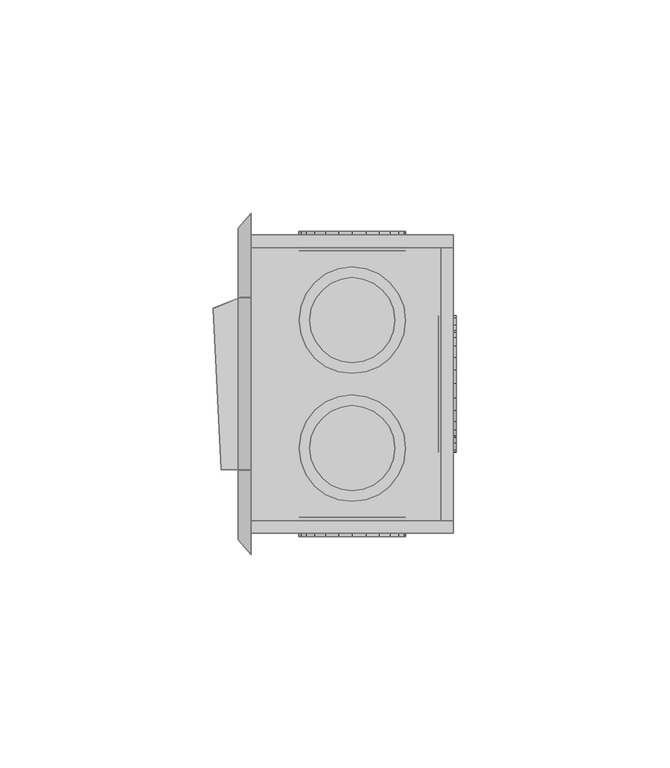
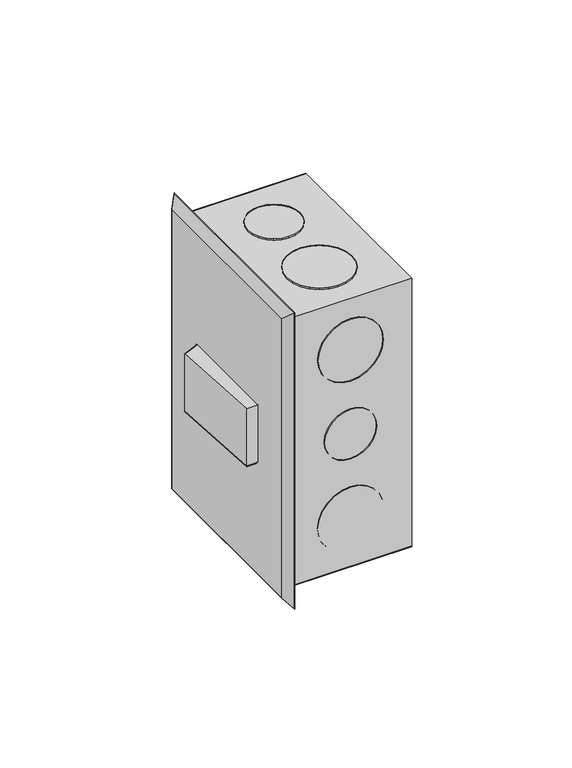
"""IFC4 building model written with IfcOpenShell, lengths in millimetres: proxy geometry,  210839 :  210839."""

from ifc_helpers import new_model, si_unit, origin, place, context, project, spatial, triangles, source, transform, mapped, element, save


def generic_models_a9407fab(model_context):
    return source(origin(), model_context, "Body", "Tessellation", [
        triangles([(8576.5997498, 30143.9995789, 1254.3000378), (8576.5997498, 30146.9993958, 1148.7000154), (8576.5997498, 30143.9995789, 1145.6999805), (8576.5997498, 30146.9993958, 1251.2999302), (8576.5997498, 30213.9999573, 1254.3000378), (8576.5997498, 30211.0001404, 1251.2999302), (8576.5997498, 30213.9999573, 1145.6999805), (8576.5997498, 30211.0001404, 1148.7000154), (8624.0997574, 30146.9993958, 1251.2999302), (8624.0997574, 30146.9993958, 1148.7000154), (8624.0997574, 30213.9999573, 1254.3000378), (8624.0997574, 30213.9999573, 1145.6999805), (8624.0997574, 30211.0001404, 1251.2999302), (8624.0997574, 30143.9995789, 1145.6999805), (8624.0997574, 30211.0001404, 1148.7000154), (8624.0997574, 30143.9995789, 1254.3000378), (8621.0999405, 30146.9993958, 1251.2999302), (8621.0999405, 30211.0001404, 1148.7000154), (8621.0999405, 30146.9993958, 1148.7000154), (8621.0999405, 30211.0001404, 1251.2999302), (8620.599971, 30165.1006165, 1191.9999887), (8620.599971, 30171.0002563, 1186.0999855), (8620.599971, 30167.7004578, 1188.6999722), (8620.599971, 30163.5007141, 1195.8999687), (8620.599971, 30174.8000244, 1184.5000105), (8620.599971, 30163.0007446, 1200.0000092), (8620.599971, 30178.9997681, 1183.9999683), (8620.599971, 30163.5007141, 1204.0999769), (8620.599971, 30183.0995178, 1184.5000105), (8620.599971, 30165.1006165, 1208.0000296), (8620.599971, 30186.9992798, 1186.0999855), (8620.599971, 30167.7004578, 1211.2999735), (8620.599971, 30190.2990784, 1188.6999722), (8620.599971, 30171.0002563, 1213.9000328), (8620.599971, 30192.7989258, 1191.9999887), (8620.599971, 30174.8000244, 1215.5000078), (8620.599971, 30194.4011536, 1195.8999687), (8620.599971, 30178.9997681, 1215.9999773), (8620.599971, 30195.0011169, 1200.0000092), (8620.599971, 30183.0995178, 1215.5000078), (8620.599971, 30194.4011536, 1204.0999769), (8620.599971, 30186.9992798, 1213.9000328), (8620.599971, 30192.7989258, 1208.0000296), (8620.599971, 30190.2990784, 1211.2999735), (8624.7997147, 30183.0995178, 1184.5000105), (8624.7997147, 30178.9997681, 1183.9999683), (8624.7997147, 30174.8000244, 1184.5000105), (8624.7997147, 30171.0002563, 1186.0999855), (8624.7997147, 30167.7004578, 1188.6999722), (8624.7997147, 30165.1006165, 1191.9999887), (8624.7997147, 30163.5007141, 1195.8999687), (8624.7997147, 30163.0007446, 1200.0000092), (8624.7997147, 30163.5007141, 1204.0999769), (8624.7997147, 30165.1006165, 1208.0000296), (8624.7997147, 30167.7004578, 1211.2999735), (8624.7997147, 30171.0002563, 1213.9000328), (8624.7997147, 30174.8000244, 1215.5000078), (8624.7997147, 30178.9997681, 1215.9999773), (8624.7997147, 30183.0995178, 1215.5000078), (8624.7997147, 30186.9992798, 1213.9000328), (8624.7997147, 30190.2990784, 1211.2999735), (8624.7997147, 30192.7989258, 1208.0000296), (8624.7997147, 30194.4011536, 1204.0999769), (8624.7997147, 30195.0011169, 1200.0000092), (8624.7997147, 30194.4011536, 1195.8999687), (8624.7997147, 30192.7989258, 1191.9999887), (8624.7997147, 30190.2990784, 1188.6999722), (8624.7997147, 30186.9992798, 1186.0999855), (8620.599971, 30168.1004333, 1227.8000565), (8620.599971, 30172.7001526, 1223.2000465), (8620.599971, 30170.1003113, 1225.2000698), (8620.599971, 30166.9005066, 1230.8000187), (8620.599971, 30175.6999695, 1221.8999805), (8620.599971, 30166.500531, 1233.9999687), (8620.599971, 30178.9997681, 1221.500005), (8620.599971, 30166.9005066, 1237.2000641), (8620.599971, 30182.1995728, 1221.8999805), (8620.599971, 30168.1004333, 1240.3000202), (8620.599971, 30185.1993896, 1223.2000465), (8620.599971, 30170.1003113, 1242.800013), (8620.599971, 30187.799231, 1225.2000698), (8620.599971, 30189.7991089, 1227.8000565), (8620.599971, 30172.7001526, 1244.8000362), (8620.599971, 30175.6999695, 1246.0999569), (8620.599971, 30190.9990356, 1230.8000187), (8620.599971, 30178.9997681, 1246.4999325), (8620.599971, 30191.4990051, 1233.9999687), (8620.599971, 30182.1995728, 1246.0999569), (8620.599971, 30190.9990356, 1237.2000641), (8620.599971, 30189.7991089, 1240.3000202), (8620.599971, 30185.1993896, 1244.8000362), (8620.599971, 30187.799231, 1242.800013), (8624.7997147, 30190.9990356, 1230.8000187), (8624.7997147, 30189.7991089, 1227.8000565), (8624.7997147, 30187.799231, 1225.2000698), (8624.7997147, 30185.1993896, 1223.2000465), (8624.7997147, 30182.1995728, 1221.8999805), (8624.7997147, 30178.9997681, 1221.500005), (8624.7997147, 30175.6999695, 1221.8999805), (8624.7997147, 30172.7001526, 1223.2000465), (8624.7997147, 30170.1003113, 1225.2000698), (8624.7997147, 30168.1004333, 1227.8000565), (8624.7997147, 30166.9005066, 1230.8000187), (8624.7997147, 30166.500531, 1233.9999687), (8624.7997147, 30166.9005066, 1237.2000641), (8624.7997147, 30168.1004333, 1240.3000202), (8624.7997147, 30170.1003113, 1242.800013), (8624.7997147, 30172.7001526, 1244.8000362), (8624.7997147, 30175.6999695, 1246.0999569), (8624.7997147, 30178.9997681, 1246.4999325), (8624.7997147, 30182.1995728, 1246.0999569), (8624.7997147, 30185.1993896, 1244.8000362), (8624.7997147, 30187.799231, 1242.800013), (8624.7997147, 30189.7991089, 1240.3000202), (8624.7997147, 30190.9990356, 1237.2000641), (8624.7997147, 30191.4990051, 1233.9999687), (8624.7997147, 30172.7001526, 1155.1999821), (8624.7997147, 30168.1004333, 1159.6999981), (8624.7997147, 30170.1003113, 1157.2000053), (8624.7997147, 30175.6999695, 1153.8999887), (8624.7997147, 30166.9005066, 1162.8000269), (8624.7997147, 30178.9997681, 1153.5000132), (8624.7997147, 30166.500531, 1165.9999769), (8624.7997147, 30182.1995728, 1153.8999887), (8624.7997147, 30166.9005066, 1169.1999996), (8624.7997147, 30185.1993896, 1155.1999821), (8624.7997147, 30168.1004333, 1172.2000345), (8624.7997147, 30187.799231, 1157.2000053), (8624.7997147, 30170.1003113, 1174.8000212), (8624.7997147, 30189.7991089, 1159.6999981), (8624.7997147, 30172.7001526, 1176.7999718), (8624.7997147, 30190.9990356, 1162.8000269), (8624.7997147, 30175.6999695, 1178.0999651), (8624.7997147, 30178.9997681, 1178.5000134), (8624.7997147, 30191.4990051, 1165.9999769), (8624.7997147, 30190.9990356, 1169.1999996), (8624.7997147, 30182.1995728, 1178.0999651), (8624.7997147, 30189.7991089, 1172.2000345), (8624.7997147, 30185.1993896, 1176.7999718), (8624.7997147, 30187.799231, 1174.8000212), (8620.599971, 30175.6999695, 1178.0999651), (8620.599971, 30178.9997681, 1178.5000134), (8620.599971, 30172.7001526, 1176.7999718), (8620.599971, 30170.1003113, 1174.8000212), (8620.599971, 30168.1004333, 1172.2000345), (8620.599971, 30166.9005066, 1169.1999996), (8620.599971, 30166.500531, 1165.9999769), (8620.599971, 30166.9005066, 1162.8000269), (8620.599971, 30168.1004333, 1159.6999981), (8620.599971, 30170.1003113, 1157.2000053), (8620.599971, 30172.7001526, 1155.1999821), (8620.599971, 30175.6999695, 1153.8999887), (8620.599971, 30178.9997681, 1153.5000132), (8620.599971, 30182.1995728, 1153.8999887), (8620.599971, 30185.1993896, 1155.1999821), (8620.599971, 30187.799231, 1157.2000053), (8620.599971, 30189.7991089, 1159.6999981), (8620.599971, 30190.9990356, 1162.8000269), (8620.599971, 30191.4990051, 1165.9999769), (8620.599971, 30190.9990356, 1169.1999996), (8620.599971, 30189.7991089, 1172.2000345), (8620.599971, 30187.799231, 1174.8000212), (8620.599971, 30185.1993896, 1176.7999718), (8620.599971, 30182.1995728, 1178.0999651), (8605.2997421, 30147.7993469, 1191.3000315), (8609.0000977, 30147.7993469, 1195.0000237), (8607.4001953, 30147.7993469, 1192.9000065), (8610.0000366, 30147.7993469, 1197.4000225), (8602.8998886, 30147.7993469, 1190.3000198), (8610.3000183, 30147.7993469, 1200.0000092), (8600.3000473, 30147.7993469, 1189.9999655), (8597.8001999, 30147.7993469, 1190.3000198), (8610.0000366, 30147.7993469, 1202.5999958), (8609.0000977, 30147.7993469, 1204.9999947), (8595.2997711, 30147.7993469, 1191.3000315), (8607.4001953, 30147.7993469, 1207.1000118), (8593.2998932, 30147.7993469, 1192.9000065), (8591.6999908, 30147.7993469, 1195.0000237), (8605.2997421, 30147.7993469, 1208.6999868), (8590.7000519, 30147.7993469, 1197.4000225), (8602.8998886, 30147.7993469, 1209.6999985), (8590.3000763, 30147.7993469, 1200.0000092), (8600.3000473, 30147.7993469, 1209.9999802), (8590.7000519, 30147.7993469, 1202.5999958), (8597.8001999, 30147.7993469, 1209.6999985), (8595.2997711, 30147.7993469, 1208.6999868), (8591.6999908, 30147.7993469, 1204.9999947), (8593.2998932, 30147.7993469, 1207.1000118), (8600.3000473, 30143.1996277, 1189.9999655), (8602.8998886, 30143.1996277, 1190.3000198), (8597.8001999, 30143.1996277, 1190.3000198), (8595.2997711, 30143.1996277, 1191.3000315), (8593.2998932, 30143.1996277, 1192.9000065), (8591.6999908, 30143.1996277, 1195.0000237), (8590.7000519, 30143.1996277, 1197.4000225), (8590.3000763, 30143.1996277, 1200.0000092), (8590.7000519, 30143.1996277, 1202.5999958), (8591.6999908, 30143.1996277, 1204.9999947), (8593.2998932, 30143.1996277, 1207.1000118), (8595.2997711, 30143.1996277, 1208.6999868), (8597.8001999, 30143.1996277, 1209.6999985), (8600.3000473, 30143.1996277, 1209.9999802), (8602.8998886, 30143.1996277, 1209.6999985), (8605.2997421, 30143.1996277, 1208.6999868), (8607.4001953, 30143.1996277, 1207.1000118), (8609.0000977, 30143.1996277, 1204.9999947), (8610.0000366, 30143.1996277, 1202.5999958), (8610.3000183, 30143.1996277, 1200.0000092), (8610.0000366, 30143.1996277, 1197.4000225), (8609.0000977, 30143.1996277, 1195.0000237), (8607.4001953, 30143.1996277, 1192.9000065), (8605.2997421, 30143.1996277, 1191.3000315), (8606.6002441, 30147.7993469, 1223.2000465), (8611.1999634, 30147.7993469, 1227.8000565), (8609.2000854, 30147.7993469, 1225.2000698), (8603.5998459, 30147.7993469, 1221.8999805), (8612.3998901, 30147.7993469, 1230.8000187), (8612.7998657, 30147.7993469, 1233.9999687), (8600.3000473, 30147.7993469, 1221.500005), (8597.1002426, 30147.7993469, 1221.8999805), (8612.3998901, 30147.7993469, 1237.2000641), (8611.1999634, 30147.7993469, 1240.3000202), (8594.0998444, 30147.7993469, 1223.2000465), (8591.5000031, 30147.7993469, 1225.2000698), (8609.2000854, 30147.7993469, 1242.800013), (8589.5001251, 30147.7993469, 1227.8000565), (8606.6002441, 30147.7993469, 1244.8000362), (8588.3001984, 30147.7993469, 1230.8000187), (8603.5998459, 30147.7993469, 1246.0999569), (8587.8002289, 30147.7993469, 1233.9999687), (8600.3000473, 30147.7993469, 1246.4999325), (8588.3001984, 30147.7993469, 1237.2000641), (8597.1002426, 30147.7993469, 1246.0999569), (8589.5001251, 30147.7993469, 1240.3000202), (8594.0998444, 30147.7993469, 1244.8000362), (8591.5000031, 30147.7993469, 1242.800013), (8600.3000473, 30143.1996277, 1221.500005), (8603.5998459, 30143.1996277, 1221.8999805), (8597.1002426, 30143.1996277, 1221.8999805), (8594.0998444, 30143.1996277, 1223.2000465), (8591.5000031, 30143.1996277, 1225.2000698), (8589.5001251, 30143.1996277, 1227.8000565), (8588.3001984, 30143.1996277, 1230.8000187), (8587.8002289, 30143.1996277, 1233.9999687), (8588.3001984, 30143.1996277, 1237.2000641), (8589.5001251, 30143.1996277, 1240.3000202), (8591.5000031, 30143.1996277, 1242.800013), (8594.0998444, 30143.1996277, 1244.8000362), (8597.1002426, 30143.1996277, 1246.0999569), (8600.3000473, 30143.1996277, 1246.4999325), (8603.5998459, 30143.1996277, 1246.0999569), (8606.6002441, 30143.1996277, 1244.8000362), (8609.2000854, 30143.1996277, 1242.800013), (8611.1999634, 30143.1996277, 1240.3000202), (8612.3998901, 30143.1996277, 1237.2000641), (8612.7998657, 30143.1996277, 1233.9999687), (8612.3998901, 30143.1996277, 1230.8000187), (8611.1999634, 30143.1996277, 1227.8000565), (8609.2000854, 30143.1996277, 1225.2000698), (8606.6002441, 30143.1996277, 1223.2000465), (8611.1999634, 30143.1996277, 1159.6999981), (8606.6002441, 30143.1996277, 1155.1999821), (8609.2000854, 30143.1996277, 1157.2000053), (8612.3998901, 30143.1996277, 1162.8000269), (8603.5998459, 30143.1996277, 1153.8999887), (8612.7998657, 30143.1996277, 1165.9999769), (8600.3000473, 30143.1996277, 1153.5000132), (8612.3998901, 30143.1996277, 1169.1999996), (8597.1002426, 30143.1996277, 1153.8999887), (8611.1999634, 30143.1996277, 1172.2000345), (8594.0998444, 30143.1996277, 1155.1999821), (8609.2000854, 30143.1996277, 1174.8000212), (8591.5000031, 30143.1996277, 1157.2000053), (8606.6002441, 30143.1996277, 1176.7999718), (8589.5001251, 30143.1996277, 1159.6999981), (8603.5998459, 30143.1996277, 1178.0999651), (8588.3001984, 30143.1996277, 1162.8000269), (8600.3000473, 30143.1996277, 1178.5000134), (8587.8002289, 30143.1996277, 1165.9999769), (8597.1002426, 30143.1996277, 1178.0999651), (8588.3001984, 30143.1996277, 1169.1999996), (8594.0998444, 30143.1996277, 1176.7999718), (8589.5001251, 30143.1996277, 1172.2000345), (8591.5000031, 30143.1996277, 1174.8000212), (8603.5998459, 30147.7993469, 1178.0999651), (8600.3000473, 30147.7993469, 1178.5000134), (8597.1002426, 30147.7993469, 1178.0999651), (8594.0998444, 30147.7993469, 1176.7999718), (8591.5000031, 30147.7993469, 1174.8000212), (8589.5001251, 30147.7993469, 1172.2000345), (8588.3001984, 30147.7993469, 1169.1999996), (8587.8002289, 30147.7993469, 1165.9999769), (8588.3001984, 30147.7993469, 1162.8000269), (8589.5001251, 30147.7993469, 1159.6999981), (8591.5000031, 30147.7993469, 1157.2000053), (8594.0998444, 30147.7993469, 1155.1999821), (8597.1002426, 30147.7993469, 1153.8999887), (8600.3000473, 30147.7993469, 1153.5000132), (8603.5998459, 30147.7993469, 1153.8999887), (8606.6002441, 30147.7993469, 1155.1999821), (8609.2000854, 30147.7993469, 1157.2000053), (8611.1999634, 30147.7993469, 1159.6999981), (8612.3998901, 30147.7993469, 1162.8000269), (8612.7998657, 30147.7993469, 1165.9999769), (8612.3998901, 30147.7993469, 1169.1999996), (8611.1999634, 30147.7993469, 1172.2000345), (8609.2000854, 30147.7993469, 1174.8000212), (8606.6002441, 30147.7993469, 1176.7999718), (8609.0000977, 30210.2001892, 1195.0000237), (8605.2997421, 30210.2001892, 1191.3000315), (8607.4001953, 30210.2001892, 1192.9000065), (8610.0000366, 30210.2001892, 1197.4000225), (8602.8998886, 30210.2001892, 1190.3000198), (8610.3000183, 30210.2001892, 1200.0000092), (8600.3000473, 30210.2001892, 1189.9999655), (8610.0000366, 30210.2001892, 1202.5999958), (8597.8001999, 30210.2001892, 1190.3000198), (8609.0000977, 30210.2001892, 1204.9999947), (8595.2997711, 30210.2001892, 1191.3000315), (8607.4001953, 30210.2001892, 1207.1000118), (8593.2998932, 30210.2001892, 1192.9000065), (8605.2997421, 30210.2001892, 1208.6999868), (8591.6999908, 30210.2001892, 1195.0000237), (8602.8998886, 30210.2001892, 1209.6999985), (8590.7000519, 30210.2001892, 1197.4000225), (8590.3000763, 30210.2001892, 1200.0000092), (8600.3000473, 30210.2001892, 1209.9999802), (8597.8001999, 30210.2001892, 1209.6999985), (8590.7000519, 30210.2001892, 1202.5999958), (8595.2997711, 30210.2001892, 1208.6999868), (8591.6999908, 30210.2001892, 1204.9999947), (8593.2998932, 30210.2001892, 1207.1000118), (8602.8998886, 30214.7999084, 1209.6999985), (8600.3000473, 30214.7999084, 1209.9999802), (8597.8001999, 30214.7999084, 1209.6999985), (8595.2997711, 30214.7999084, 1208.6999868), (8593.2998932, 30214.7999084, 1207.1000118), (8591.6999908, 30214.7999084, 1204.9999947), (8590.7000519, 30214.7999084, 1202.5999958), (8590.3000763, 30214.7999084, 1200.0000092), (8590.7000519, 30214.7999084, 1197.4000225), (8591.6999908, 30214.7999084, 1195.0000237), (8593.2998932, 30214.7999084, 1192.9000065), (8595.2997711, 30214.7999084, 1191.3000315), (8597.8001999, 30214.7999084, 1190.3000198), (8600.3000473, 30214.7999084, 1189.9999655), (8602.8998886, 30214.7999084, 1190.3000198), (8605.2997421, 30214.7999084, 1191.3000315), (8607.4001953, 30214.7999084, 1192.9000065), (8609.0000977, 30214.7999084, 1195.0000237), (8610.0000366, 30214.7999084, 1197.4000225), (8610.3000183, 30214.7999084, 1200.0000092), (8610.0000366, 30214.7999084, 1202.5999958), (8609.0000977, 30214.7999084, 1204.9999947), (8607.4001953, 30214.7999084, 1207.1000118), (8605.2997421, 30214.7999084, 1208.6999868), (8611.1999634, 30210.2001892, 1159.6999981), (8606.6002441, 30210.2001892, 1155.1999821), (8609.2000854, 30210.2001892, 1157.2000053), (8612.3998901, 30210.2001892, 1162.8000269), (8603.5998459, 30210.2001892, 1153.8999887), (8612.7998657, 30210.2001892, 1165.9999769), (8600.3000473, 30210.2001892, 1153.5000132), (8612.3998901, 30210.2001892, 1169.1999996), (8597.1002426, 30210.2001892, 1153.8999887), (8611.1999634, 30210.2001892, 1172.2000345), (8594.0998444, 30210.2001892, 1155.1999821), (8609.2000854, 30210.2001892, 1174.8000212), (8591.5000031, 30210.2001892, 1157.2000053), (8606.6002441, 30210.2001892, 1176.7999718), (8589.5001251, 30210.2001892, 1159.6999981), (8603.5998459, 30210.2001892, 1178.0999651), (8588.3001984, 30210.2001892, 1162.8000269), (8600.3000473, 30210.2001892, 1178.5000134), (8587.8002289, 30210.2001892, 1165.9999769), (8597.1002426, 30210.2001892, 1178.0999651), (8588.3001984, 30210.2001892, 1169.1999996), (8594.0998444, 30210.2001892, 1176.7999718), (8589.5001251, 30210.2001892, 1172.2000345), (8591.5000031, 30210.2001892, 1174.8000212), (8603.5998459, 30214.7999084, 1178.0999651), (8600.3000473, 30214.7999084, 1178.5000134), (8597.1002426, 30214.7999084, 1178.0999651), (8594.0998444, 30214.7999084, 1176.7999718), (8591.5000031, 30214.7999084, 1174.8000212), (8589.5001251, 30214.7999084, 1172.2000345), (8588.3001984, 30214.7999084, 1169.1999996), (8587.8002289, 30214.7999084, 1165.9999769), (8588.3001984, 30214.7999084, 1162.8000269), (8589.5001251, 30214.7999084, 1159.6999981), (8591.5000031, 30214.7999084, 1157.2000053), (8594.0998444, 30214.7999084, 1155.1999821), (8597.1002426, 30214.7999084, 1153.8999887), (8600.3000473, 30214.7999084, 1153.5000132), (8603.5998459, 30214.7999084, 1153.8999887), (8606.6002441, 30214.7999084, 1155.1999821), (8609.2000854, 30214.7999084, 1157.2000053), (8611.1999634, 30214.7999084, 1159.6999981), (8612.3998901, 30214.7999084, 1162.8000269), (8612.7998657, 30214.7999084, 1165.9999769), (8612.3998901, 30214.7999084, 1169.1999996), (8611.1999634, 30214.7999084, 1172.2000345), (8609.2000854, 30214.7999084, 1174.8000212), (8606.6002441, 30214.7999084, 1176.7999718), (8606.6002441, 30214.7999084, 1223.2000465), (8611.1999634, 30214.7999084, 1227.8000565), (8609.2000854, 30214.7999084, 1225.2000698), (8603.5998459, 30214.7999084, 1221.8999805), (8612.3998901, 30214.7999084, 1230.8000187), (8612.7998657, 30214.7999084, 1233.9999687), (8600.3000473, 30214.7999084, 1221.500005), (8597.1002426, 30214.7999084, 1221.8999805), (8612.3998901, 30214.7999084, 1237.2000641), (8611.1999634, 30214.7999084, 1240.3000202), (8594.0998444, 30214.7999084, 1223.2000465), (8591.5000031, 30214.7999084, 1225.2000698), (8609.2000854, 30214.7999084, 1242.800013), (8589.5001251, 30214.7999084, 1227.8000565), (8606.6002441, 30214.7999084, 1244.8000362), (8588.3001984, 30214.7999084, 1230.8000187), (8603.5998459, 30214.7999084, 1246.0999569), (8587.8002289, 30214.7999084, 1233.9999687), (8600.3000473, 30214.7999084, 1246.4999325), (8588.3001984, 30214.7999084, 1237.2000641), (8597.1002426, 30214.7999084, 1246.0999569), (8589.5001251, 30214.7999084, 1240.3000202), (8594.0998444, 30214.7999084, 1244.8000362), (8591.5000031, 30214.7999084, 1242.800013), (8600.3000473, 30210.2001892, 1221.500005), (8603.5998459, 30210.2001892, 1221.8999805), (8597.1002426, 30210.2001892, 1221.8999805), (8594.0998444, 30210.2001892, 1223.2000465), (8591.5000031, 30210.2001892, 1225.2000698), (8589.5001251, 30210.2001892, 1227.8000565), (8588.3001984, 30210.2001892, 1230.8000187), (8587.8002289, 30210.2001892, 1233.9999687), (8588.3001984, 30210.2001892, 1237.2000641), (8589.5001251, 30210.2001892, 1240.3000202), (8591.5000031, 30210.2001892, 1242.800013), (8594.0998444, 30210.2001892, 1244.8000362), (8597.1002426, 30210.2001892, 1246.0999569), (8600.3000473, 30210.2001892, 1246.4999325), (8603.5998459, 30210.2001892, 1246.0999569), (8606.6002441, 30210.2001892, 1244.8000362), (8609.2000854, 30210.2001892, 1242.800013), (8611.1999634, 30210.2001892, 1240.3000202), (8612.3998901, 30210.2001892, 1237.2000641), (8612.7998657, 30210.2001892, 1233.9999687), (8612.3998901, 30210.2001892, 1230.8000187), (8611.1999634, 30210.2001892, 1227.8000565), (8609.2000854, 30210.2001892, 1225.2000698), (8606.6002441, 30210.2001892, 1223.2000465), (8606.6002441, 30153.0990234, 1250.9999485), (8611.1999634, 30157.7010681, 1250.9999485), (8609.2000854, 30155.0989014, 1250.9999485), (8603.5998459, 30151.8990967, 1250.9999485), (8612.3998901, 30160.700885, 1250.9999485), (8612.7998657, 30164.0006836, 1250.9999485), (8600.3000473, 30151.4991211, 1250.9999485), (8597.1002426, 30151.8990967, 1250.9999485), (8612.3998901, 30167.2004883, 1250.9999485), (8611.1999634, 30170.2003052, 1250.9999485), (8594.0998444, 30153.0990234, 1250.9999485), (8591.5000031, 30155.0989014, 1250.9999485), (8609.2000854, 30172.8001465, 1250.9999485), (8606.6002441, 30174.8000244, 1250.9999485), (8589.5001251, 30157.7010681, 1250.9999485), (8588.3001984, 30160.700885, 1250.9999485), (8603.5998459, 30175.9999512, 1250.9999485), (8587.8002289, 30164.0006836, 1250.9999485), (8600.3000473, 30176.4999207, 1250.9999485), (8588.3001984, 30167.2004883, 1250.9999485), (8597.1002426, 30175.9999512, 1250.9999485), (8594.0998444, 30174.8000244, 1250.9999485), (8589.5001251, 30170.2003052, 1250.9999485), (8591.5000031, 30172.8001465, 1250.9999485), (8612.7998657, 30164.0006836, 1255.1999828), (8612.3998901, 30167.2004883, 1255.1999828), (8612.3998901, 30160.700885, 1255.1999828), (8611.1999634, 30157.7010681, 1255.1999828), (8609.2000854, 30155.0989014, 1255.1999828), (8606.6002441, 30153.0990234, 1255.1999828), (8603.5998459, 30151.8990967, 1255.1999828), (8600.3000473, 30151.4991211, 1255.1999828), (8597.1002426, 30151.8990967, 1255.1999828), (8594.0998444, 30153.0990234, 1255.1999828), (8591.5000031, 30155.0989014, 1255.1999828), (8589.5001251, 30157.7010681, 1255.1999828), (8588.3001984, 30160.700885, 1255.1999828), (8587.8002289, 30164.0006836, 1255.1999828), (8588.3001984, 30167.2004883, 1255.1999828), (8589.5001251, 30170.2003052, 1255.1999828), (8591.5000031, 30172.8001465, 1255.1999828), (8594.0998444, 30174.8000244, 1255.1999828), (8597.1002426, 30175.9999512, 1255.1999828), (8600.3000473, 30176.4999207, 1255.1999828), (8603.5998459, 30175.9999512, 1255.1999828), (8606.6002441, 30174.8000244, 1255.1999828), (8609.2000854, 30172.8001465, 1255.1999828), (8611.1999634, 30170.2003052, 1255.1999828), (8605.2997421, 30185.2993835, 1250.9999485), (8609.0000977, 30188.9991577, 1250.9999485), (8607.4001953, 30186.8992859, 1250.9999485), (8610.0000366, 30191.3990112, 1250.9999485), (8602.8998886, 30184.2994446, 1250.9999485), (8610.3000183, 30193.9988525, 1250.9999485), (8600.3000473, 30183.9994629, 1250.9999485), (8597.8001999, 30184.2994446, 1250.9999485), (8610.0000366, 30196.6010193, 1250.9999485), (8609.0000977, 30199.0008728, 1250.9999485), (8595.2997711, 30185.2993835, 1250.9999485), (8607.4001953, 30201.0007507, 1250.9999485), (8593.2998932, 30186.8992859, 1250.9999485), (8591.6999908, 30188.9991577, 1250.9999485), (8605.2997421, 30202.6006531, 1250.9999485), (8602.8998886, 30203.600592, 1250.9999485), (8590.7000519, 30191.3990112, 1250.9999485), (8590.3000763, 30193.9988525, 1250.9999485), (8600.3000473, 30204.0005676, 1250.9999485), (8590.7000519, 30196.6010193, 1250.9999485), (8597.8001999, 30203.600592, 1250.9999485), (8591.6999908, 30199.0008728, 1250.9999485), (8595.2997711, 30202.6006531, 1250.9999485), (8593.2998932, 30201.0007507, 1250.9999485), (8610.0000366, 30196.6010193, 1255.1999828), (8609.0000977, 30199.0008728, 1255.1999828), (8610.3000183, 30193.9988525, 1255.1999828), (8610.0000366, 30191.3990112, 1255.1999828), (8609.0000977, 30188.9991577, 1255.1999828), (8607.4001953, 30186.8992859, 1255.1999828), (8605.2997421, 30185.2993835, 1255.1999828), (8602.8998886, 30184.2994446, 1255.1999828), (8600.3000473, 30183.9994629, 1255.1999828), (8597.8001999, 30184.2994446, 1255.1999828), (8595.2997711, 30185.2993835, 1255.1999828), (8593.2998932, 30186.8992859, 1255.1999828), (8591.6999908, 30188.9991577, 1255.1999828), (8590.7000519, 30191.3990112, 1255.1999828), (8590.3000763, 30193.9988525, 1255.1999828), (8590.7000519, 30196.6010193, 1255.1999828), (8591.6999908, 30199.0008728, 1255.1999828), (8593.2998932, 30201.0007507, 1255.1999828), (8595.2997711, 30202.6006531, 1255.1999828), (8597.8001999, 30203.600592, 1255.1999828), (8600.3000473, 30204.0005676, 1255.1999828), (8602.8998886, 30203.600592, 1255.1999828), (8605.2997421, 30202.6006531, 1255.1999828), (8607.4001953, 30201.0007507, 1255.1999828), (8605.2997421, 30155.2988892, 1144.8000355), (8609.0000977, 30159.0009888, 1144.8000355), (8607.4001953, 30156.9011169, 1144.8000355), (8610.0000366, 30161.4008423, 1144.8000355), (8602.8998886, 30154.2989502, 1144.8000355), (8610.3000183, 30164.0006836, 1144.8000355), (8600.3000473, 30153.9989685, 1144.8000355), (8597.8001999, 30154.2989502, 1144.8000355), (8610.0000366, 30166.6005249, 1144.8000355), (8609.0000977, 30169.0003784, 1144.8000355), (8595.2997711, 30155.2988892, 1144.8000355), (8607.4001953, 30171.0002563, 1144.8000355), (8593.2998932, 30156.9011169, 1144.8000355), (8591.6999908, 30159.0009888, 1144.8000355), (8605.2997421, 30172.6001587, 1144.8000355), (8602.8998886, 30173.6000977, 1144.8000355), (8590.7000519, 30161.4008423, 1144.8000355), (8590.3000763, 30164.0006836, 1144.8000355), (8600.3000473, 30174.0000732, 1144.8000355), (8590.7000519, 30166.6005249, 1144.8000355), (8597.8001999, 30173.6000977, 1144.8000355), (8591.6999908, 30169.0003784, 1144.8000355), (8595.2997711, 30172.6001587, 1144.8000355), (8593.2998932, 30171.0002563, 1144.8000355), (8610.0000366, 30161.4008423, 1149.099991), (8610.3000183, 30164.0006836, 1149.099991), (8609.0000977, 30159.0009888, 1149.099991), (8607.4001953, 30156.9011169, 1149.099991), (8605.2997421, 30155.2988892, 1149.099991), (8602.8998886, 30154.2989502, 1149.099991), (8600.3000473, 30153.9989685, 1149.099991), (8597.8001999, 30154.2989502, 1149.099991), (8595.2997711, 30155.2988892, 1149.099991), (8593.2998932, 30156.9011169, 1149.099991), (8591.6999908, 30159.0009888, 1149.099991), (8590.7000519, 30161.4008423, 1149.099991), (8590.3000763, 30164.0006836, 1149.099991), (8590.7000519, 30166.6005249, 1149.099991), (8591.6999908, 30169.0003784, 1149.099991), (8593.2998932, 30171.0002563, 1149.099991), (8595.2997711, 30172.6001587, 1149.099991), (8597.8001999, 30173.6000977, 1149.099991), (8600.3000473, 30174.0000732, 1149.099991), (8602.8998886, 30173.6000977, 1149.099991), (8605.2997421, 30172.6001587, 1149.099991), (8607.4001953, 30171.0002563, 1149.099991), (8609.0000977, 30169.0003784, 1149.099991), (8610.0000366, 30166.6005249, 1149.099991), (8606.6002441, 30183.0995178, 1144.8000355), (8611.1999634, 30187.6992371, 1144.8000355), (8609.2000854, 30185.0993958, 1144.8000355), (8603.5998459, 30181.8995911, 1144.8000355), (8612.3998901, 30190.699054, 1144.8000355), (8612.7998657, 30193.9988525, 1144.8000355), (8600.3000473, 30181.4996155, 1144.8000355), (8597.1002426, 30181.8995911, 1144.8000355), (8612.3998901, 30197.2009827, 1144.8000355), (8611.1999634, 30200.2007996, 1144.8000355), (8594.0998444, 30183.0995178, 1144.8000355), (8591.5000031, 30185.0993958, 1144.8000355), (8609.2000854, 30202.8006409, 1144.8000355), (8606.6002441, 30204.8005188, 1144.8000355), (8589.5001251, 30187.6992371, 1144.8000355), (8588.3001984, 30190.699054, 1144.8000355), (8603.5998459, 30206.0004456, 1144.8000355), (8587.8002289, 30193.9988525, 1144.8000355), (8600.3000473, 30206.500415, 1144.8000355), (8588.3001984, 30197.2009827, 1144.8000355), (8597.1002426, 30206.0004456, 1144.8000355), (8594.0998444, 30204.8005188, 1144.8000355), (8589.5001251, 30200.2007996, 1144.8000355), (8591.5000031, 30202.8006409, 1144.8000355), (8612.3998901, 30197.2009827, 1149.099991), (8611.1999634, 30200.2007996, 1149.099991), (8612.7998657, 30193.9988525, 1149.099991), (8612.3998901, 30190.699054, 1149.099991), (8611.1999634, 30187.6992371, 1149.099991), (8609.2000854, 30185.0993958, 1149.099991), (8606.6002441, 30183.0995178, 1149.099991), (8603.5998459, 30181.8995911, 1149.099991), (8600.3000473, 30181.4996155, 1149.099991), (8597.1002426, 30181.8995911, 1149.099991), (8594.0998444, 30183.0995178, 1149.099991), (8591.5000031, 30185.0993958, 1149.099991), (8589.5001251, 30187.6992371, 1149.099991), (8588.3001984, 30190.699054, 1149.099991), (8587.8002289, 30193.9988525, 1149.099991), (8588.3001984, 30197.2009827, 1149.099991), (8589.5001251, 30200.2007996, 1149.099991), (8591.5000031, 30202.8006409, 1149.099991), (8594.0998444, 30204.8005188, 1149.099991), (8597.1002426, 30206.0004456, 1149.099991), (8600.3000473, 30206.500415, 1149.099991), (8603.5998459, 30206.0004456, 1149.099991), (8606.6002441, 30204.8005188, 1149.099991), (8609.2000854, 30202.8006409, 1149.099991), (8576.5997498, 30218.9996521, 1139.9999651), (8576.5997498, 30158.801001, 1188.2999966), (8576.5997498, 30138.999884, 1139.9999651), (8576.5997498, 30199.2008606, 1188.2999966), (8576.5997498, 30218.9996521, 1259.9999805), (8576.5997498, 30199.2008606, 1211.7000217), (8576.5997498, 30138.999884, 1259.9999805), (8576.5997498, 30158.801001, 1211.7000217), (8573.5999329, 30199.2008606, 1188.2999966), (8573.5999329, 30199.2008606, 1211.7000217), (8573.5999329, 30158.801001, 1188.2999966), (8573.5999329, 30158.801001, 1211.7000217), (8573.5999329, 30142.4996704, 1143.4999695), (8573.5999329, 30142.4996704, 1256.5000488), (8573.5999329, 30215.4998657, 1143.4999695), (8573.5999329, 30215.4998657, 1256.5000488), (8569.600177, 30158.9009949, 1188.1000088), (8576.5997498, 30199.3008545, 1188.1000088), (8576.5997498, 30158.9009949, 1188.1000088), (8567.6997116, 30196.7010132, 1188.1000088), (8574.0999023, 30199.3008545, 1188.1000088), (8576.5997498, 30158.9009949, 1211.500034), (8576.5997498, 30199.3008545, 1211.500034), (8569.600177, 30158.9009949, 1211.500034), (8567.6997116, 30196.7010132, 1211.500034), (8574.0999023, 30199.3008545, 1211.500034)], [[1, 2, 3], [2, 1, 4], [5, 4, 1], [4, 5, 6], [3, 2, 7], [7, 2, 8], [7, 8, 6], [7, 6, 5], [2, 9, 10], [9, 2, 4], [7, 11, 12], [11, 7, 5], [4, 13, 9], [13, 4, 6], [3, 12, 14], [12, 3, 7], [13, 8, 15], [8, 13, 6], [16, 3, 14], [3, 16, 1], [15, 2, 10], [2, 15, 8], [11, 1, 16], [1, 11, 5], [12, 10, 14], [10, 12, 15], [11, 15, 12], [15, 11, 13], [14, 10, 16], [16, 10, 9], [16, 9, 13], [16, 13, 11], [17, 18, 19], [18, 17, 20], [18, 13, 15], [13, 18, 20], [19, 15, 10], [15, 19, 18], [9, 19, 10], [19, 9, 17], [13, 17, 9], [17, 13, 20], [15, 9, 10], [9, 15, 13], [21, 22, 23], [22, 21, 24], [25, 22, 24], [25, 24, 26], [27, 25, 26], [27, 26, 28], [29, 27, 28], [29, 28, 30], [31, 29, 30], [31, 30, 32], [31, 32, 33], [33, 32, 34], [33, 34, 35], [35, 34, 36], [35, 36, 37], [37, 36, 38], [37, 38, 39], [39, 38, 40], [39, 40, 41], [41, 40, 42], [41, 42, 43], [43, 42, 44], [27, 45, 46], [45, 27, 29], [25, 46, 47], [46, 25, 27], [22, 47, 48], [47, 22, 25], [23, 48, 49], [48, 23, 22], [50, 23, 49], [23, 50, 21], [51, 21, 50], [21, 51, 24], [52, 24, 51], [24, 52, 26], [53, 26, 52], [26, 53, 28], [54, 28, 53], [28, 54, 30], [55, 30, 54], [30, 55, 32], [56, 32, 55], [32, 56, 34], [57, 34, 56], [34, 57, 36], [58, 36, 57], [36, 58, 38], [59, 38, 58], [38, 59, 40], [60, 40, 59], [40, 60, 42], [61, 42, 60], [42, 61, 44], [43, 61, 62], [61, 43, 44], [41, 62, 63], [62, 41, 43], [39, 63, 64], [63, 39, 41], [37, 64, 65], [64, 37, 39], [35, 65, 66], [65, 35, 37], [33, 66, 67], [66, 33, 35], [31, 67, 68], [67, 31, 33], [29, 68, 45], [68, 29, 31], [48, 50, 49], [50, 48, 47], [51, 50, 47], [51, 47, 46], [52, 51, 46], [52, 46, 45], [53, 52, 45], [53, 45, 68], [54, 53, 68], [54, 68, 67], [54, 67, 55], [55, 67, 66], [55, 66, 56], [56, 66, 65], [56, 65, 57], [57, 65, 64], [57, 64, 58], [58, 64, 63], [58, 63, 59], [59, 63, 62], [59, 62, 60], [60, 62, 61], [69, 70, 71], [70, 69, 72], [73, 70, 72], [73, 72, 74], [75, 73, 74], [75, 74, 76], [77, 75, 76], [77, 76, 78], [79, 77, 78], [79, 78, 80], [81, 79, 80], [81, 80, 82], [82, 80, 83], [82, 83, 84], [82, 84, 85], [85, 84, 86], [85, 86, 87], [87, 86, 88], [87, 88, 89], [89, 88, 90], [90, 88, 91], [90, 91, 92], [82, 93, 94], [93, 82, 85], [81, 94, 95], [94, 81, 82], [79, 95, 96], [95, 79, 81], [77, 96, 97], [96, 77, 79], [75, 97, 98], [97, 75, 77], [73, 98, 99], [98, 73, 75], [70, 99, 100], [99, 70, 73], [71, 100, 101], [100, 71, 70], [102, 71, 101], [71, 102, 69], [103, 69, 102], [69, 103, 72], [104, 72, 103], [72, 104, 74], [105, 74, 104], [74, 105, 76], [106, 76, 105], [76, 106, 78], [107, 78, 106], [78, 107, 80], [108, 80, 107], [80, 108, 83], [109, 83, 108], [83, 109, 84], [110, 84, 109], [84, 110, 86], [111, 86, 110], [86, 111, 88], [112, 88, 111], [88, 112, 91], [113, 91, 112], [91, 113, 92], [90, 113, 114], [113, 90, 92], [89, 114, 115], [114, 89, 90], [87, 115, 116], [115, 87, 89], [85, 116, 93], [116, 85, 87], [100, 102, 101], [102, 100, 99], [103, 102, 99], [103, 99, 98], [104, 103, 98], [104, 98, 97], [105, 104, 97], [106, 105, 97], [106, 97, 96], [106, 96, 95], [106, 95, 107], [107, 95, 94], [107, 94, 108], [108, 94, 93], [108, 93, 109], [109, 93, 116], [109, 116, 110], [110, 116, 115], [110, 115, 111], [111, 115, 114], [111, 114, 112], [112, 114, 113], [117, 118, 119], [118, 117, 120], [121, 118, 120], [121, 120, 122], [123, 121, 122], [123, 122, 124], [125, 123, 124], [125, 124, 126], [127, 125, 126], [127, 126, 128], [127, 128, 129], [129, 128, 130], [129, 130, 131], [131, 130, 132], [131, 132, 133], [133, 132, 134], [134, 132, 135], [134, 135, 136], [134, 136, 137], [137, 136, 138], [137, 138, 139], [139, 138, 140], [134, 141, 133], [141, 134, 142], [133, 143, 131], [143, 133, 141], [131, 144, 129], [144, 131, 143], [129, 145, 127], [145, 129, 144], [127, 146, 125], [146, 127, 145], [125, 147, 123], [147, 125, 146], [123, 148, 121], [148, 123, 147], [121, 149, 118], [149, 121, 148], [118, 150, 119], [150, 118, 149], [150, 117, 119], [117, 150, 151], [151, 120, 117], [120, 151, 152], [152, 122, 120], [122, 152, 153], [153, 124, 122], [124, 153, 154], [154, 126, 124], [126, 154, 155], [155, 128, 126], [128, 155, 156], [156, 130, 128], [130, 156, 157], [157, 132, 130], [132, 157, 158], [158, 135, 132], [135, 158, 159], [159, 136, 135], [136, 159, 160], [160, 138, 136], [138, 160, 161], [161, 140, 138], [140, 161, 162], [140, 163, 139], [163, 140, 162], [139, 164, 137], [164, 139, 163], [137, 142, 134], [142, 137, 164], [149, 151, 150], [151, 149, 148], [152, 151, 148], [153, 152, 148], [153, 148, 147], [153, 147, 146], [154, 153, 146], [154, 146, 145], [155, 154, 145], [155, 145, 144], [156, 155, 144], [156, 144, 157], [157, 144, 143], [157, 143, 141], [157, 141, 158], [158, 141, 142], [158, 142, 159], [159, 142, 164], [159, 164, 160], [160, 164, 163], [160, 163, 161], [161, 163, 162], [165, 166, 167], [168, 166, 165], [168, 165, 169], [170, 168, 169], [170, 169, 171], [170, 171, 172], [173, 170, 172], [174, 173, 172], [174, 172, 175], [176, 174, 175], [176, 175, 177], [176, 177, 178], [176, 178, 179], [179, 178, 180], [179, 180, 181], [181, 180, 182], [181, 182, 183], [183, 182, 184], [183, 184, 185], [185, 184, 186], [186, 184, 187], [186, 187, 188], [189, 169, 190], [169, 189, 171], [191, 171, 189], [171, 191, 172], [192, 172, 191], [172, 192, 175], [193, 175, 192], [175, 193, 177], [194, 177, 193], [177, 194, 178], [195, 178, 194], [178, 195, 180], [196, 180, 195], [180, 196, 182], [197, 182, 196], [182, 197, 184], [198, 184, 197], [184, 198, 187], [199, 187, 198], [187, 199, 188], [186, 199, 200], [199, 186, 188], [185, 200, 201], [200, 185, 186], [183, 201, 202], [201, 183, 185], [181, 202, 203], [202, 181, 183], [179, 203, 204], [203, 179, 181], [176, 204, 205], [204, 176, 179], [174, 205, 206], [205, 174, 176], [173, 206, 207], [206, 173, 174], [170, 207, 208], [207, 170, 173], [168, 208, 209], [208, 168, 170], [166, 209, 210], [209, 166, 168], [167, 210, 211], [210, 167, 166], [212, 167, 211], [167, 212, 165], [190, 165, 212], [165, 190, 169], [210, 212, 211], [212, 210, 209], [190, 212, 209], [190, 209, 208], [189, 190, 208], [189, 208, 207], [191, 189, 207], [191, 207, 206], [192, 191, 206], [192, 206, 205], [192, 205, 193], [193, 205, 204], [193, 204, 194], [194, 204, 203], [194, 203, 195], [195, 203, 196], [196, 203, 202], [196, 202, 201], [196, 201, 197], [197, 201, 200], [197, 200, 198], [198, 200, 199], [213, 214, 215], [214, 213, 216], [217, 214, 216], [218, 217, 216], [218, 216, 219], [218, 219, 220], [221, 218, 220], [222, 221, 220], [222, 220, 223], [222, 223, 224], [222, 224, 225], [225, 224, 226], [225, 226, 227], [227, 226, 228], [227, 228, 229], [229, 228, 230], [229, 230, 231], [231, 230, 232], [231, 232, 233], [233, 232, 234], [233, 234, 235], [235, 234, 236], [237, 216, 238], [216, 237, 219], [239, 219, 237], [219, 239, 220], [240, 220, 239], [220, 240, 223], [241, 223, 240], [223, 241, 224], [242, 224, 241], [224, 242, 226], [243, 226, 242], [226, 243, 228], [244, 228, 243], [228, 244, 230], [245, 230, 244], [230, 245, 232], [246, 232, 245], [232, 246, 234], [247, 234, 246], [234, 247, 236], [235, 247, 248], [247, 235, 236], [233, 248, 249], [248, 233, 235], [231, 249, 250], [249, 231, 233], [229, 250, 251], [250, 229, 231], [227, 251, 252], [251, 227, 229], [225, 252, 253], [252, 225, 227], [222, 253, 254], [253, 222, 225], [221, 254, 255], [254, 221, 222], [218, 255, 256], [255, 218, 221], [217, 256, 257], [256, 217, 218], [214, 257, 258], [257, 214, 217], [215, 258, 259], [258, 215, 214], [260, 215, 259], [215, 260, 213], [238, 213, 260], [213, 238, 216], [258, 260, 259], [260, 258, 257], [238, 260, 257], [238, 257, 256], [237, 238, 256], [237, 256, 255], [239, 237, 255], [239, 255, 254], [240, 239, 254], [240, 254, 253], [241, 240, 253], [241, 253, 252], [241, 252, 242], [242, 252, 251], [242, 251, 243], [243, 251, 244], [244, 251, 250], [244, 250, 249], [244, 249, 245], [245, 249, 246], [246, 249, 248], [246, 248, 247], [261, 262, 263], [262, 261, 264], [265, 262, 264], [265, 264, 266], [267, 265, 266], [267, 266, 268], [269, 267, 268], [269, 268, 270], [271, 269, 270], [271, 270, 272], [273, 271, 272], [273, 272, 274], [273, 274, 275], [275, 274, 276], [275, 276, 277], [277, 276, 278], [277, 278, 279], [279, 278, 280], [279, 280, 281], [281, 280, 282], [281, 282, 283], [283, 282, 284], [285, 278, 276], [278, 285, 286], [286, 280, 278], [280, 286, 287], [287, 282, 280], [282, 287, 288], [288, 284, 282], [284, 288, 289], [284, 290, 283], [290, 284, 289], [283, 291, 281], [291, 283, 290], [281, 292, 279], [292, 281, 291], [279, 293, 277], [293, 279, 292], [277, 294, 275], [294, 277, 293], [275, 295, 273], [295, 275, 294], [273, 296, 271], [296, 273, 295], [271, 297, 269], [297, 271, 296], [269, 298, 267], [298, 269, 297], [267, 299, 265], [299, 267, 298], [265, 300, 262], [300, 265, 299], [262, 301, 263], [301, 262, 300], [301, 261, 263], [261, 301, 302], [302, 264, 261], [264, 302, 303], [303, 266, 264], [266, 303, 304], [304, 268, 266], [268, 304, 305], [305, 270, 268], [270, 305, 306], [306, 272, 270], [272, 306, 307], [307, 274, 272], [274, 307, 308], [308, 276, 274], [276, 308, 285], [300, 302, 301], [302, 300, 299], [303, 302, 299], [303, 299, 298], [304, 303, 298], [304, 298, 297], [305, 304, 297], [305, 297, 296], [306, 305, 296], [306, 296, 295], [306, 295, 307], [307, 295, 294], [307, 294, 308], [308, 294, 293], [308, 293, 285], [285, 293, 286], [286, 293, 292], [286, 292, 291], [286, 291, 287], [287, 291, 288], [288, 291, 290], [288, 290, 289], [309, 310, 311], [310, 309, 312], [313, 310, 312], [313, 312, 314], [315, 313, 314], [315, 314, 316], [317, 315, 316], [317, 316, 318], [319, 317, 318], [319, 318, 320], [319, 320, 321], [321, 320, 322], [321, 322, 323], [323, 322, 324], [323, 324, 325], [325, 324, 326], [326, 324, 327], [326, 327, 328], [326, 328, 329], [329, 328, 330], [329, 330, 331], [331, 330, 332], [333, 327, 324], [327, 333, 334], [334, 328, 327], [328, 334, 335], [335, 330, 328], [330, 335, 336], [336, 332, 330], [332, 336, 337], [332, 338, 331], [338, 332, 337], [331, 339, 329], [339, 331, 338], [329, 340, 326], [340, 329, 339], [326, 341, 325], [341, 326, 340], [325, 342, 323], [342, 325, 341], [323, 343, 321], [343, 323, 342], [321, 344, 319], [344, 321, 343], [319, 345, 317], [345, 319, 344], [317, 346, 315], [346, 317, 345], [315, 347, 313], [347, 315, 346], [313, 348, 310], [348, 313, 347], [310, 349, 311], [349, 310, 348], [349, 309, 311], [309, 349, 350], [350, 312, 309], [312, 350, 351], [351, 314, 312], [314, 351, 352], [352, 316, 314], [316, 352, 353], [353, 318, 316], [318, 353, 354], [354, 320, 318], [320, 354, 355], [355, 322, 320], [322, 355, 356], [356, 324, 322], [324, 356, 333], [348, 350, 349], [351, 350, 348], [351, 348, 347], [352, 351, 347], [352, 347, 346], [352, 346, 345], [353, 352, 345], [354, 353, 345], [354, 345, 344], [355, 354, 344], [355, 344, 343], [355, 343, 342], [355, 342, 356], [356, 342, 341], [356, 341, 333], [333, 341, 340], [333, 340, 334], [334, 340, 339], [334, 339, 335], [335, 339, 336], [336, 339, 338], [336, 338, 337], [357, 358, 359], [358, 357, 360], [361, 358, 360], [361, 360, 362], [363, 361, 362], [363, 362, 364], [365, 363, 364], [365, 364, 366], [367, 365, 366], [367, 366, 368], [369, 367, 368], [369, 368, 370], [369, 370, 371], [371, 370, 372], [371, 372, 373], [373, 372, 374], [373, 374, 375], [375, 374, 376], [375, 376, 377], [377, 376, 378], [377, 378, 379], [379, 378, 380], [381, 374, 372], [374, 381, 382], [382, 376, 374], [376, 382, 383], [383, 378, 376], [378, 383, 384], [384, 380, 378], [380, 384, 385], [380, 386, 379], [386, 380, 385], [379, 387, 377], [387, 379, 386], [377, 388, 375], [388, 377, 387], [375, 389, 373], [389, 375, 388], [373, 390, 371], [390, 373, 389], [371, 391, 369], [391, 371, 390], [369, 392, 367], [392, 369, 391], [367, 393, 365], [393, 367, 392], [365, 394, 363], [394, 365, 393], [363, 395, 361], [395, 363, 394], [361, 396, 358], [396, 361, 395], [358, 397, 359], [397, 358, 396], [397, 357, 359], [357, 397, 398], [398, 360, 357], [360, 398, 399], [399, 362, 360], [362, 399, 400], [400, 364, 362], [364, 400, 401], [401, 366, 364], [366, 401, 402], [402, 368, 366], [368, 402, 403], [403, 370, 368], [370, 403, 404], [404, 372, 370], [372, 404, 381], [396, 398, 397], [398, 396, 395], [399, 398, 395], [399, 395, 394], [400, 399, 394], [400, 394, 393], [401, 400, 393], [401, 393, 392], [402, 401, 392], [402, 392, 391], [402, 391, 403], [403, 391, 390], [403, 390, 404], [404, 390, 389], [404, 389, 381], [381, 389, 382], [382, 389, 388], [382, 388, 387], [382, 387, 383], [383, 387, 384], [384, 387, 386], [384, 386, 385], [405, 406, 407], [406, 405, 408], [409, 406, 408], [410, 409, 408], [410, 408, 411], [410, 411, 412], [413, 410, 412], [414, 413, 412], [414, 412, 415], [414, 415, 416], [414, 416, 417], [417, 416, 418], [417, 418, 419], [419, 418, 420], [419, 420, 421], [421, 420, 422], [421, 422, 423], [423, 422, 424], [423, 424, 425], [425, 424, 426], [425, 426, 427], [427, 426, 428], [429, 408, 430], [408, 429, 411], [431, 411, 429], [411, 431, 412], [432, 412, 431], [412, 432, 415], [433, 415, 432], [415, 433, 416], [434, 416, 433], [416, 434, 418], [435, 418, 434], [418, 435, 420], [436, 420, 435], [420, 436, 422], [437, 422, 436], [422, 437, 424], [438, 424, 437], [424, 438, 426], [439, 426, 438], [426, 439, 428], [427, 439, 440], [439, 427, 428], [425, 440, 441], [440, 425, 427], [423, 441, 442], [441, 423, 425], [421, 442, 443], [442, 421, 423], [419, 443, 444], [443, 419, 421], [417, 444, 445], [444, 417, 419], [414, 445, 446], [445, 414, 417], [413, 446, 447], [446, 413, 414], [410, 447, 448], [447, 410, 413], [409, 448, 449], [448, 409, 410], [406, 449, 450], [449, 406, 409], [407, 450, 451], [450, 407, 406], [452, 407, 451], [407, 452, 405], [430, 405, 452], [405, 430, 408], [450, 452, 451], [452, 450, 449], [430, 452, 449], [430, 449, 448], [429, 430, 448], [429, 448, 447], [431, 429, 447], [431, 447, 446], [432, 431, 446], [432, 446, 445], [433, 432, 445], [433, 445, 444], [433, 444, 434], [434, 444, 443], [434, 443, 435], [435, 443, 436], [436, 443, 442], [436, 442, 441], [436, 441, 437], [437, 441, 438], [438, 441, 440], [438, 440, 439], [453, 454, 455], [454, 453, 456], [457, 454, 456], [458, 457, 456], [458, 456, 459], [458, 459, 460], [461, 458, 460], [462, 461, 460], [462, 460, 463], [462, 463, 464], [462, 464, 465], [465, 464, 466], [466, 464, 467], [466, 467, 468], [466, 468, 469], [469, 468, 470], [469, 470, 471], [471, 470, 472], [471, 472, 473], [473, 472, 474], [474, 472, 475], [474, 475, 476], [461, 477, 458], [477, 461, 478], [458, 479, 457], [479, 458, 477], [457, 480, 454], [480, 457, 479], [454, 481, 455], [481, 454, 480], [481, 453, 455], [453, 481, 482], [482, 456, 453], [456, 482, 483], [483, 459, 456], [459, 483, 484], [484, 460, 459], [460, 484, 485], [485, 463, 460], [463, 485, 486], [486, 464, 463], [464, 486, 487], [487, 467, 464], [467, 487, 488], [488, 468, 467], [468, 488, 489], [489, 470, 468], [470, 489, 490], [490, 472, 470], [472, 490, 491], [491, 475, 472], [475, 491, 492], [492, 476, 475], [476, 492, 493], [476, 494, 474], [494, 476, 493], [474, 495, 473], [495, 474, 494], [473, 496, 471], [496, 473, 495], [471, 497, 469], [497, 471, 496], [469, 498, 466], [498, 469, 497], [466, 499, 465], [499, 466, 498], [465, 500, 462], [500, 465, 499], [462, 478, 461], [478, 462, 500], [480, 482, 481], [483, 482, 480], [483, 480, 479], [483, 479, 477], [484, 483, 477], [485, 484, 477], [485, 477, 478], [485, 478, 500], [486, 485, 500], [487, 486, 500], [487, 500, 499], [487, 499, 498], [487, 498, 488], [488, 498, 489], [489, 498, 497], [489, 497, 490], [490, 497, 496], [490, 496, 491], [491, 496, 495], [491, 495, 494], [491, 494, 492], [492, 494, 493], [501, 502, 503], [504, 502, 501], [504, 501, 505], [506, 504, 505], [506, 505, 507], [506, 507, 508], [509, 506, 508], [510, 509, 508], [510, 508, 511], [512, 510, 511], [512, 511, 513], [512, 513, 514], [512, 514, 515], [515, 514, 516], [516, 514, 517], [516, 517, 518], [516, 518, 519], [519, 518, 520], [519, 520, 521], [521, 520, 522], [521, 522, 523], [523, 522, 524], [510, 525, 509], [525, 510, 526], [509, 527, 506], [527, 509, 525], [506, 528, 504], [528, 506, 527], [504, 529, 502], [529, 504, 528], [502, 530, 503], [530, 502, 529], [530, 501, 503], [501, 530, 531], [531, 505, 501], [505, 531, 532], [532, 507, 505], [507, 532, 533], [533, 508, 507], [508, 533, 534], [534, 511, 508], [511, 534, 535], [535, 513, 511], [513, 535, 536], [536, 514, 513], [514, 536, 537], [537, 517, 514], [517, 537, 538], [538, 518, 517], [518, 538, 539], [539, 520, 518], [520, 539, 540], [540, 522, 520], [522, 540, 541], [541, 524, 522], [524, 541, 542], [524, 543, 523], [543, 524, 542], [523, 544, 521], [544, 523, 543], [521, 545, 519], [545, 521, 544], [519, 546, 516], [546, 519, 545], [516, 547, 515], [547, 516, 546], [515, 548, 512], [548, 515, 547], [512, 526, 510], [526, 512, 548], [529, 531, 530], [531, 529, 528], [532, 531, 528], [532, 528, 527], [533, 532, 527], [534, 533, 527], [534, 527, 525], [534, 525, 526], [535, 534, 526], [535, 526, 548], [535, 548, 536], [536, 548, 537], [537, 548, 547], [537, 547, 546], [537, 546, 538], [538, 546, 539], [539, 546, 545], [539, 545, 540], [540, 545, 544], [540, 544, 541], [541, 544, 543], [541, 543, 542], [549, 550, 551], [552, 550, 549], [552, 549, 553], [554, 552, 553], [554, 553, 555], [554, 555, 556], [557, 554, 556], [558, 557, 556], [558, 556, 559], [560, 558, 559], [560, 559, 561], [560, 561, 562], [560, 562, 563], [563, 562, 564], [564, 562, 565], [564, 565, 566], [564, 566, 567], [567, 566, 568], [567, 568, 569], [569, 568, 570], [569, 570, 571], [571, 570, 572], [554, 573, 552], [573, 554, 574], [552, 575, 550], [575, 552, 573], [550, 576, 551], [576, 550, 575], [576, 549, 551], [549, 576, 577], [577, 553, 549], [553, 577, 578], [578, 555, 553], [555, 578, 579], [579, 556, 555], [556, 579, 580], [580, 559, 556], [559, 580, 581], [581, 561, 559], [561, 581, 582], [582, 562, 561], [562, 582, 583], [583, 565, 562], [565, 583, 584], [584, 566, 565], [566, 584, 585], [585, 568, 566], [568, 585, 586], [586, 570, 568], [570, 586, 587], [587, 572, 570], [572, 587, 588], [572, 589, 571], [589, 572, 588], [571, 590, 569], [590, 571, 589], [569, 591, 567], [591, 569, 590], [567, 592, 564], [592, 567, 591], [564, 593, 563], [593, 564, 592], [563, 594, 560], [594, 563, 593], [560, 595, 558], [595, 560, 594], [558, 596, 557], [596, 558, 595], [557, 574, 554], [574, 557, 596], [575, 577, 576], [577, 575, 573], [578, 577, 573], [578, 573, 574], [579, 578, 574], [580, 579, 574], [580, 574, 596], [580, 596, 595], [581, 580, 595], [581, 595, 594], [581, 594, 582], [582, 594, 583], [583, 594, 593], [583, 593, 592], [583, 592, 584], [584, 592, 585], [585, 592, 591], [585, 591, 586], [586, 591, 590], [586, 590, 587], [587, 590, 589], [587, 589, 588], [597, 598, 599], [598, 597, 600], [601, 598, 600], [602, 601, 600], [602, 600, 603], [602, 603, 604], [605, 602, 604], [606, 605, 604], [606, 604, 607], [606, 607, 608], [606, 608, 609], [609, 608, 610], [610, 608, 611], [610, 611, 612], [610, 612, 613], [613, 612, 614], [613, 614, 615], [615, 614, 616], [615, 616, 617], [617, 616, 618], [618, 616, 619], [618, 619, 620], [606, 621, 605], [621, 606, 622], [605, 623, 602], [623, 605, 621], [602, 624, 601], [624, 602, 623], [601, 625, 598], [625, 601, 624], [598, 626, 599], [626, 598, 625], [626, 597, 599], [597, 626, 627], [627, 600, 597], [600, 627, 628], [628, 603, 600], [603, 628, 629], [629, 604, 603], [604, 629, 630], [630, 607, 604], [607, 630, 631], [631, 608, 607], [608, 631, 632], [632, 611, 608], [611, 632, 633], [633, 612, 611], [612, 633, 634], [634, 614, 612], [614, 634, 635], [635, 616, 614], [616, 635, 636], [636, 619, 616], [619, 636, 637], [637, 620, 619], [620, 637, 638], [620, 639, 618], [639, 620, 638], [618, 640, 617], [640, 618, 639], [617, 641, 615], [641, 617, 640], [615, 642, 613], [642, 615, 641], [613, 643, 610], [643, 613, 642], [610, 644, 609], [644, 610, 643], [609, 622, 606], [622, 609, 644], [625, 627, 626], [628, 627, 625], [628, 625, 624], [628, 624, 623], [629, 628, 623], [630, 629, 623], [630, 623, 621], [630, 621, 622], [631, 630, 622], [632, 631, 622], [632, 622, 644], [632, 644, 643], [632, 643, 633], [633, 643, 634], [634, 643, 642], [634, 642, 635], [635, 642, 641], [635, 641, 636], [636, 641, 640], [636, 640, 639], [636, 639, 637], [637, 639, 638], [645, 646, 647], [646, 645, 648], [649, 648, 645], [648, 649, 650], [647, 646, 651], [651, 646, 652], [651, 652, 650], [651, 650, 649], [650, 653, 648], [653, 650, 654], [648, 655, 646], [655, 648, 653], [655, 652, 646], [652, 655, 656], [656, 650, 652], [650, 656, 654], [651, 657, 647], [657, 651, 658], [647, 657, 645], [645, 657, 659], [660, 645, 659], [645, 660, 649], [651, 660, 658], [649, 660, 651], [658, 655, 657], [655, 658, 656], [654, 656, 658], [654, 658, 660], [655, 659, 657], [659, 655, 653], [659, 653, 660], [660, 653, 654], [661, 662, 663], [662, 661, 664], [662, 664, 665], [662, 666, 663], [666, 662, 667], [666, 661, 663], [661, 666, 668], [668, 664, 661], [664, 668, 669], [664, 670, 665], [670, 664, 669], [665, 667, 662], [667, 665, 670], [667, 668, 666], [668, 667, 669], [669, 667, 670]], closed=False),
    ])


if __name__ == "__main__":
    model = new_model("IFC4")
    model_context = context("Model", 3, world=origin())
    ifc_project = project(units=[si_unit("LENGTHUNIT", "METRE", prefix="MILLI")], contexts=[model_context])
    site = spatial("IfcSite", under=ifc_project)
    building = spatial("IfcBuilding", under=site)
    placement = place(None, origin())
    generic_models_shape = generic_models_a9407fab(model_context)
    element("IfcBuildingElementProxy", 1, Name=" 210839 :  210839", ObjectType=" 210839 :  210839", at=placement, inside=building, context=model_context, shape_type="MappedRepresentation", body=[
        mapped(generic_models_shape, transform((0.0, 0.0, 0.0), x_axis=(1.0, 0.0, 0.0), y_axis=(0.0, 1.0, 0.0), z_axis=(0.0, 0.0, 1.0))),
    ])
    save(model, "model.ifc")
